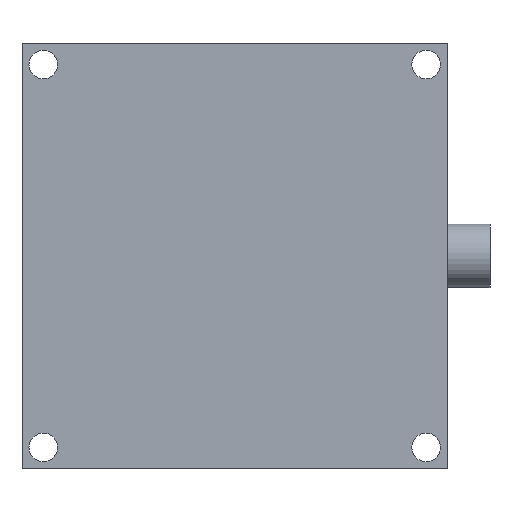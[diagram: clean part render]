
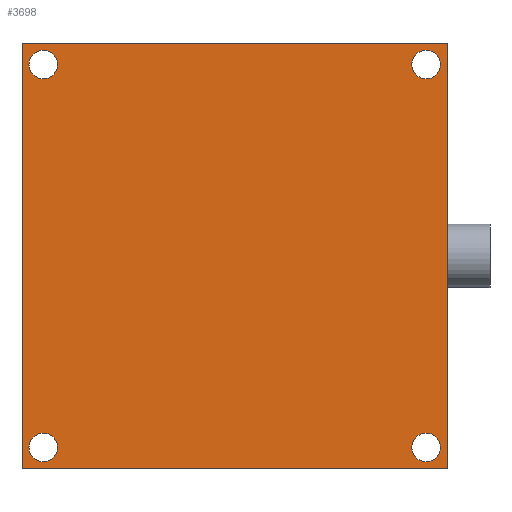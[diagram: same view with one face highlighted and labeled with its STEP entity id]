
A CAD part, left-side view. The second image highlights one B-rep face of the part: STEP entity #3698.
In plain terms, the highlighted planar face has unit normal (-1, 0, 0).
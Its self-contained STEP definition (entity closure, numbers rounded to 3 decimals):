
#65 = CARTESIAN_POINT ( 'NONE',  ( 0., 0., 0. ) ) ;
#67 = CARTESIAN_POINT ( 'NONE',  ( 0., -18., 19.35 ) ) ;
#147 = ORIENTED_EDGE ( 'NONE', *, *, #3033, .T. ) ;
#150 = CARTESIAN_POINT ( 'NONE',  ( 0., -18., 18. ) ) ;
#164 = DIRECTION ( 'NONE',  ( 0., 0., -1. ) ) ;
#167 = VECTOR ( 'NONE', #589, 1000. ) ;
#184 = VERTEX_POINT ( 'NONE', #4030 ) ;
#209 = CARTESIAN_POINT ( 'NONE',  ( 0., 20., 20. ) ) ;
#354 = VERTEX_POINT ( 'NONE', #377 ) ;
#359 = DIRECTION ( 'NONE',  ( 0., 0., -1. ) ) ;
#360 = FACE_BOUND ( 'NONE', #3260, .T. ) ;
#377 = CARTESIAN_POINT ( 'NONE',  ( 0., -18., -16.65 ) ) ;
#429 = CIRCLE ( 'NONE', #1516, 1.35 ) ;
#485 = CARTESIAN_POINT ( 'NONE',  ( 0., 18., -19.35 ) ) ;
#525 = VECTOR ( 'NONE', #1205, 1000. ) ;
#554 = AXIS2_PLACEMENT_3D ( 'NONE', #3306, #2264, #3337 ) ;
#557 = ORIENTED_EDGE ( 'NONE', *, *, #2259, .T. ) ;
#562 = FACE_BOUND ( 'NONE', #1629, .T. ) ;
#589 = DIRECTION ( 'NONE',  ( 0., -1., 0. ) ) ;
#624 = CARTESIAN_POINT ( 'NONE',  ( 0., 18., 19.35 ) ) ;
#699 = DIRECTION ( 'NONE',  ( 1., 0., 0. ) ) ;
#770 = DIRECTION ( 'NONE',  ( 0., 0., -1. ) ) ;
#811 = DIRECTION ( 'NONE',  ( 1., 0., 0. ) ) ;
#815 = CARTESIAN_POINT ( 'NONE',  ( 0., 18., 18. ) ) ;
#835 = ORIENTED_EDGE ( 'NONE', *, *, #3607, .F. ) ;
#924 = LINE ( 'NONE', #2994, #2925 ) ;
#929 = CIRCLE ( 'NONE', #554, 1.35 ) ;
#973 = DIRECTION ( 'NONE',  ( 0., 0., 1. ) ) ;
#1011 = ORIENTED_EDGE ( 'NONE', *, *, #1813, .F. ) ;
#1021 = PLANE ( 'NONE',  #3408 ) ;
#1043 = VERTEX_POINT ( 'NONE', #2851 ) ;
#1095 = CIRCLE ( 'NONE', #4066, 1.35 ) ;
#1110 = ORIENTED_EDGE ( 'NONE', *, *, #1697, .F. ) ;
#1132 = FACE_OUTER_BOUND ( 'NONE', #1136, .T. ) ;
#1136 = EDGE_LOOP ( 'NONE', ( #835, #2912, #1110, #1011 ) ) ;
#1205 = DIRECTION ( 'NONE',  ( 0., 0., -1. ) ) ;
#1247 = AXIS2_PLACEMENT_3D ( 'NONE', #2894, #1258, #2210 ) ;
#1258 = DIRECTION ( 'NONE',  ( 1., 0., 0. ) ) ;
#1347 = VERTEX_POINT ( 'NONE', #67 ) ;
#1413 = CARTESIAN_POINT ( 'NONE',  ( 0., 20., 20. ) ) ;
#1458 = CIRCLE ( 'NONE', #1247, 1.35 ) ;
#1472 = CARTESIAN_POINT ( 'NONE',  ( 0., -18., -19.35 ) ) ;
#1491 = DIRECTION ( 'NONE',  ( 1., 0., 0. ) ) ;
#1516 = AXIS2_PLACEMENT_3D ( 'NONE', #815, #1491, #2496 ) ;
#1593 = DIRECTION ( 'NONE',  ( 0., 1., 0. ) ) ;
#1629 = EDGE_LOOP ( 'NONE', ( #557, #147 ) ) ;
#1694 = FACE_BOUND ( 'NONE', #2841, .T. ) ;
#1697 = EDGE_CURVE ( 'NONE', #2684, #3474, #2356, .T. ) ;
#1708 = CIRCLE ( 'NONE', #2889, 1.35 ) ;
#1718 = EDGE_CURVE ( 'NONE', #354, #2731, #1458, .T. ) ;
#1813 = EDGE_CURVE ( 'NONE', #2114, #2684, #4316, .T. ) ;
#1816 = CIRCLE ( 'NONE', #2945, 1.35 ) ;
#1825 = DIRECTION ( 'NONE',  ( 1., 0., 0. ) ) ;
#1937 = ORIENTED_EDGE ( 'NONE', *, *, #3756, .T. ) ;
#2058 = CARTESIAN_POINT ( 'NONE',  ( 0., -18., 16.65 ) ) ;
#2114 = VERTEX_POINT ( 'NONE', #3096 ) ;
#2156 = CARTESIAN_POINT ( 'NONE',  ( 0., -18., -18. ) ) ;
#2208 = ORIENTED_EDGE ( 'NONE', *, *, #4241, .T. ) ;
#2210 = DIRECTION ( 'NONE',  ( 0., 0., -1. ) ) ;
#2220 = EDGE_LOOP ( 'NONE', ( #2208, #3286 ) ) ;
#2244 = VERTEX_POINT ( 'NONE', #485 ) ;
#2250 = EDGE_CURVE ( 'NONE', #3127, #1347, #1816, .T. ) ;
#2259 = EDGE_CURVE ( 'NONE', #2244, #1043, #1095, .T. ) ;
#2264 = DIRECTION ( 'NONE',  ( 1., 0., 0. ) ) ;
#2272 = AXIS2_PLACEMENT_3D ( 'NONE', #150, #2464, #770 ) ;
#2356 = LINE ( 'NONE', #209, #167 ) ;
#2373 = ORIENTED_EDGE ( 'NONE', *, *, #2465, .T. ) ;
#2392 = AXIS2_PLACEMENT_3D ( 'NONE', #2156, #2498, #2847 ) ;
#2464 = DIRECTION ( 'NONE',  ( 1., 0., 0. ) ) ;
#2465 = EDGE_CURVE ( 'NONE', #3029, #2755, #1708, .T. ) ;
#2496 = DIRECTION ( 'NONE',  ( 0., 0., -1. ) ) ;
#2498 = DIRECTION ( 'NONE',  ( 1., 0., 0. ) ) ;
#2508 = EDGE_CURVE ( 'NONE', #2755, #3029, #429, .T. ) ;
#2596 = CARTESIAN_POINT ( 'NONE',  ( 0., -20., 20. ) ) ;
#2684 = VERTEX_POINT ( 'NONE', #1413 ) ;
#2731 = VERTEX_POINT ( 'NONE', #1472 ) ;
#2755 = VERTEX_POINT ( 'NONE', #2807 ) ;
#2807 = CARTESIAN_POINT ( 'NONE',  ( 0., 18., 16.65 ) ) ;
#2841 = EDGE_LOOP ( 'NONE', ( #4111, #1937 ) ) ;
#2847 = DIRECTION ( 'NONE',  ( 0., 0., -1. ) ) ;
#2851 = CARTESIAN_POINT ( 'NONE',  ( 0., 18., -16.65 ) ) ;
#2856 = ORIENTED_EDGE ( 'NONE', *, *, #2508, .T. ) ;
#2857 = DIRECTION ( 'NONE',  ( 0., 0., -1. ) ) ;
#2873 = CARTESIAN_POINT ( 'NONE',  ( 0., -18., 18. ) ) ;
#2889 = AXIS2_PLACEMENT_3D ( 'NONE', #2900, #4238, #3936 ) ;
#2892 = CARTESIAN_POINT ( 'NONE',  ( 0., 18., -18. ) ) ;
#2894 = CARTESIAN_POINT ( 'NONE',  ( 0., -18., -18. ) ) ;
#2900 = CARTESIAN_POINT ( 'NONE',  ( 0., 18., 18. ) ) ;
#2904 = EDGE_CURVE ( 'NONE', #3474, #184, #4199, .T. ) ;
#2912 = ORIENTED_EDGE ( 'NONE', *, *, #2904, .F. ) ;
#2925 = VECTOR ( 'NONE', #1593, 1000. ) ;
#2945 = AXIS2_PLACEMENT_3D ( 'NONE', #2873, #1825, #2857 ) ;
#2994 = CARTESIAN_POINT ( 'NONE',  ( 0., 20., -20. ) ) ;
#3029 = VERTEX_POINT ( 'NONE', #624 ) ;
#3033 = EDGE_CURVE ( 'NONE', #1043, #2244, #929, .T. ) ;
#3096 = CARTESIAN_POINT ( 'NONE',  ( 0., 20., -20. ) ) ;
#3127 = VERTEX_POINT ( 'NONE', #2058 ) ;
#3216 = CARTESIAN_POINT ( 'NONE',  ( 0., -20., 20. ) ) ;
#3260 = EDGE_LOOP ( 'NONE', ( #2856, #2373 ) ) ;
#3286 = ORIENTED_EDGE ( 'NONE', *, *, #1718, .T. ) ;
#3306 = CARTESIAN_POINT ( 'NONE',  ( 0., 18., -18. ) ) ;
#3337 = DIRECTION ( 'NONE',  ( 0., 0., -1. ) ) ;
#3408 = AXIS2_PLACEMENT_3D ( 'NONE', #65, #699, #359 ) ;
#3474 = VERTEX_POINT ( 'NONE', #2596 ) ;
#3607 = EDGE_CURVE ( 'NONE', #184, #2114, #924, .T. ) ;
#3643 = CARTESIAN_POINT ( 'NONE',  ( 0., 20., 20. ) ) ;
#3698 = ADVANCED_FACE ( 'NONE', ( #360, #3711, #1694, #562, #1132 ), #1021, .F. ) ;
#3711 = FACE_BOUND ( 'NONE', #2220, .T. ) ;
#3756 = EDGE_CURVE ( 'NONE', #1347, #3127, #3765, .T. ) ;
#3765 = CIRCLE ( 'NONE', #2272, 1.35 ) ;
#3836 = VECTOR ( 'NONE', #973, 1000. ) ;
#3936 = DIRECTION ( 'NONE',  ( 0., 0., -1. ) ) ;
#4030 = CARTESIAN_POINT ( 'NONE',  ( 0., -20., -20. ) ) ;
#4066 = AXIS2_PLACEMENT_3D ( 'NONE', #2892, #811, #164 ) ;
#4111 = ORIENTED_EDGE ( 'NONE', *, *, #2250, .T. ) ;
#4123 = CIRCLE ( 'NONE', #2392, 1.35 ) ;
#4199 = LINE ( 'NONE', #3216, #525 ) ;
#4238 = DIRECTION ( 'NONE',  ( 1., 0., 0. ) ) ;
#4241 = EDGE_CURVE ( 'NONE', #2731, #354, #4123, .T. ) ;
#4316 = LINE ( 'NONE', #3643, #3836 ) ;
